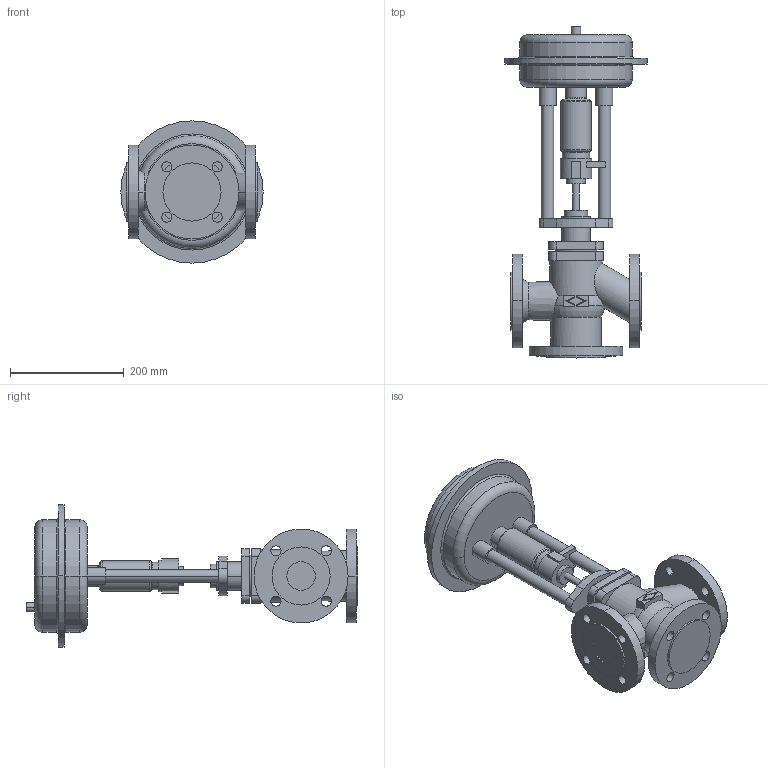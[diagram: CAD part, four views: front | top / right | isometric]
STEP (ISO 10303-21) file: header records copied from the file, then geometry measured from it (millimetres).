
FILE_DESCRIPTION(('OneSpaceDesigner STEP Export'),'2;1');
FILE_NAME('c000000772.stp','2006-09-13T12:39:21',(''),(''),'OneSpace Designer STEP processor for AP214 (Solid Model)','OneSpace Designer 13.20A 18-Aug-2005 (C) CoCreate Software GmbH','');
FILE_SCHEMA(('AUTOMOTIVE_DESIGN { 1 0 10303 214 1 1 1 1 }'));
Length unit declared in the file: millimetre
Products named in the file (2): 1; 2
Bounding box: 250 x 583.5 x 250 mm (x, y, z)
Volume: 6540301.2 mm3; surface area: 482366.5 mm2
Topology: 2 solids, 2 shells, 205 faces, 499 edges, 326 vertices
Faces by surface type: cylinder 94, plane 81, torus 22, cone 8
Entity records: 5578 total; most frequent: CARTESIAN_POINT 1131, ORIENTED_EDGE 998, DIRECTION 810, EDGE_CURVE 499, VERTEX_POINT 326, AXIS2_PLACEMENT_3D 293, EDGE_LOOP 257, VECTOR 224
